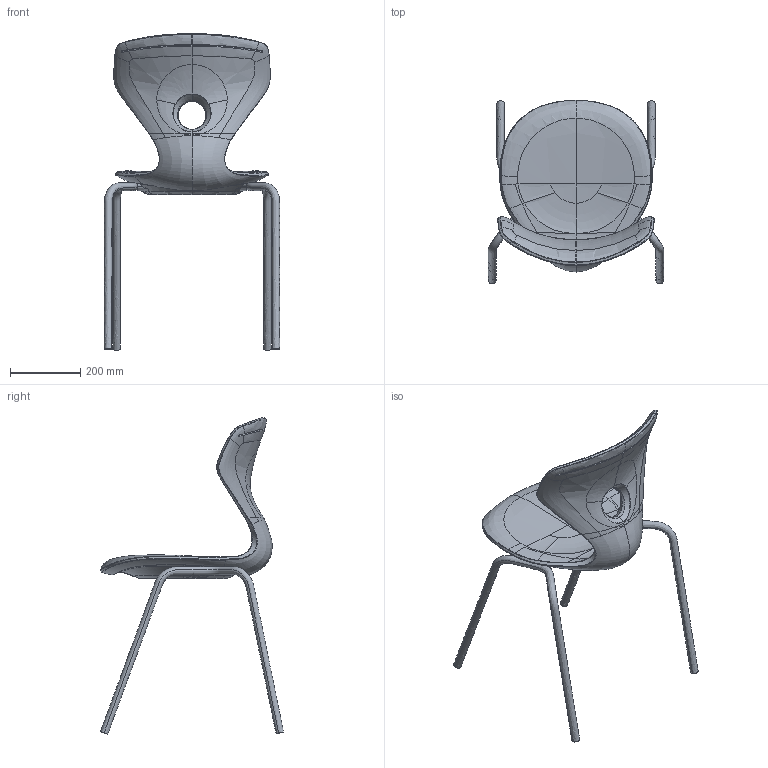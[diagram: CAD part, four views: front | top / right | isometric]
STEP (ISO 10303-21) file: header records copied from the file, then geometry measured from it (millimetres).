
FILE_DESCRIPTION(/* description */ (''),/* implementation_level */ '2;1');
FILE_NAME(/* name */ '4-noha',/* time_stamp */ '2017-10-30T13:27:18+01:00',/* author */ (''),/* organization */ (''),/* preprocessor_version */ 'ST-DEVELOPER v10',/* originating_system */ '',/* authorisation */ '');
FILE_SCHEMA (('CONFIG_CONTROL_DESIGN'));
Products named in the file (1): 1
Bounding box: 497.97 x 520.18 x 898.99 mm (x, y, z)
Surface area: 866764 mm2 (no closed solid volume)
Topology: 0 solids, 19 shells, 788 faces, 2301 edges, 1508 vertices
Faces by surface type: bspline 708, plane 80
Entity records: 121931 total; most frequent: CARTESIAN_POINT 109123, ORIENTED_EDGE 3941, EDGE_CURVE 2301, B_SPLINE_CURVE_WITH_KNOTS 1891, VERTEX_POINT 1508, EDGE_LOOP 801, ADVANCED_FACE 788, FACE_OUTER_BOUND 788
